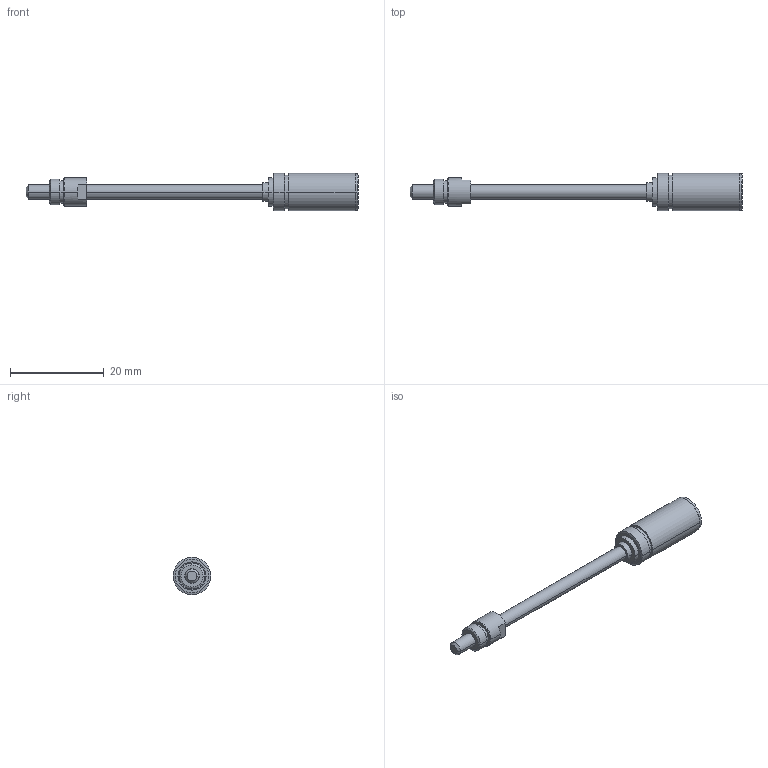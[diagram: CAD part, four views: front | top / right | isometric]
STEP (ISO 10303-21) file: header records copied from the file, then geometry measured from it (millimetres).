
FILE_DESCRIPTION((''),'2;1');
FILE_NAME('473646_GP8S-4ST','2016-10-05T',('mmagpetk'),(''),'CREO PARAMETRIC BY PTC INC, 2016050','CREO PARAMETRIC BY PTC INC, 2016050','');
FILE_SCHEMA(('CONFIG_CONTROL_DESIGN'));
Length unit declared in the file: millimetre
Products named in the file (1): 473646_GP8S-4ST
Bounding box: 70.8 x 8 x 8 mm (x, y, z)
Volume: 1224 mm3; surface area: 1330.6 mm2
Topology: 1 solids, 1 shells, 61 faces, 124 edges, 76 vertices
Faces by surface type: cylinder 26, plane 17, cone 16, torus 2
Entity records: 2725 total; most frequent: DIRECTION 320, CARTESIAN_POINT 261, ORIENTED_EDGE 248, PRESENTATION_STYLE_ASSIGNMENT 177, AXIS2_PLACEMENT_3D 135, STYLED_ITEM 125, CURVE_STYLE 124, EDGE_CURVE 124
